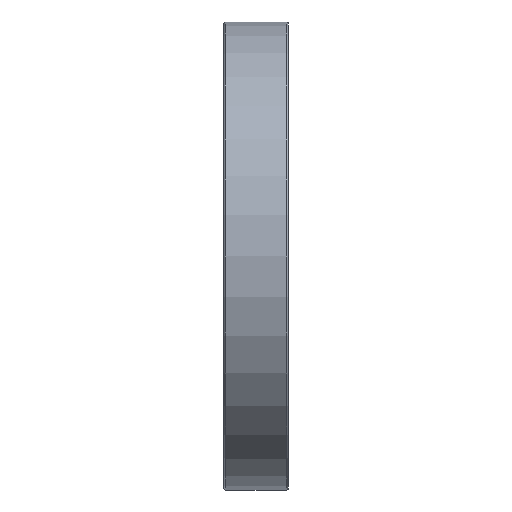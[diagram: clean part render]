
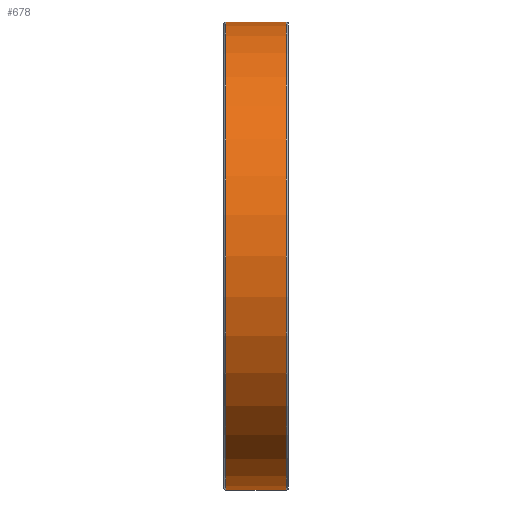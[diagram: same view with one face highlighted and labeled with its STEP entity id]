
A CAD part, front view. The second image highlights one B-rep face of the part: STEP entity #678.
In plain terms, the highlighted cylindrical face has radius 72.5 mm (diameter 145 mm), a full revolution.
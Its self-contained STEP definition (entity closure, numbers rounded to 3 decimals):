
#191=CYLINDRICAL_SURFACE('',#1086,72.5);
#323=EDGE_LOOP('',(#467));
#324=EDGE_LOOP('',(#468));
#467=ORIENTED_EDGE('',*,*,#547,.F.);
#468=ORIENTED_EDGE('',*,*,#545,.T.);
#545=EDGE_CURVE('',#997,#997,#565,.T.);
#547=EDGE_CURVE('',#999,#999,#567,.T.);
#565=CIRCLE('',#1082,72.5);
#567=CIRCLE('',#1085,72.5);
#678=ADVANCED_FACE('',(#867,#868),#191,.T.);
#867=FACE_BOUND('',#323,.T.);
#868=FACE_BOUND('',#324,.T.);
#997=VERTEX_POINT('',#2370);
#999=VERTEX_POINT('',#2375);
#1082=AXIS2_PLACEMENT_3D('',#2369,#1234,#1235);
#1085=AXIS2_PLACEMENT_3D('',#2374,#1240,#1241);
#1086=AXIS2_PLACEMENT_3D('',#2376,#1242,#1243);
#1234=DIRECTION('',(1.,0.,0.));
#1235=DIRECTION('',(0.,0.,-1.));
#1240=DIRECTION('',(1.,0.,0.));
#1241=DIRECTION('',(0.,0.,-1.));
#1242=DIRECTION('',(1.,0.,0.));
#1243=DIRECTION('',(0.,0.,-1.));
#2369=CARTESIAN_POINT('',(-9.4,0.,0.));
#2370=CARTESIAN_POINT('',(-9.4,0.,-72.5));
#2374=CARTESIAN_POINT('',(9.4,0.,0.));
#2375=CARTESIAN_POINT('',(9.4,0.,-72.5));
#2376=CARTESIAN_POINT('',(-9.4,0.,0.));
